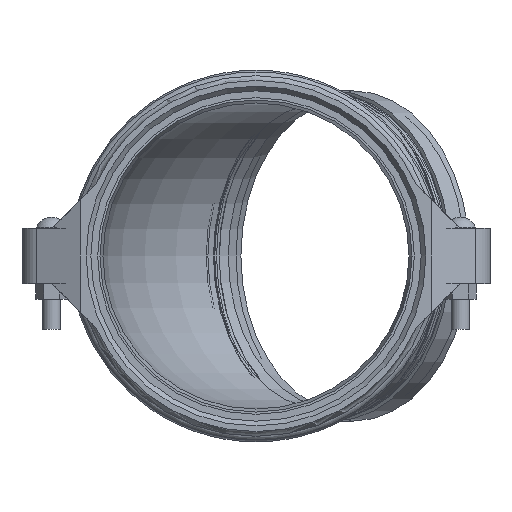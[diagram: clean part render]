
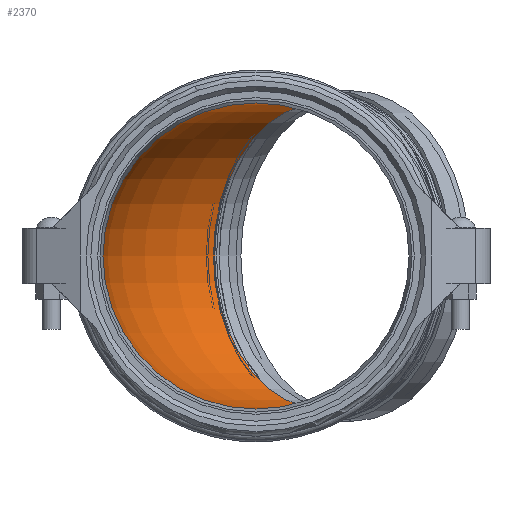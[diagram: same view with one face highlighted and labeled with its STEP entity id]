
A CAD part, left-side view. The second image highlights one B-rep face of the part: STEP entity #2370.
In plain terms, the highlighted toroidal (fillet/blend) face has major radius 316.416 mm and minor radius 211.836 mm.
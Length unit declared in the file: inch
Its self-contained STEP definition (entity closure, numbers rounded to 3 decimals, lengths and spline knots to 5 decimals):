
#76=TOROIDAL_SURFACE('',#2712,12.45734,8.34);
#528=FACE_OUTER_BOUND('',#665,.T.);
#665=EDGE_LOOP('',(#1967,#1968,#1969,#1970,#1971));
#807=CIRCLE('',#2713,8.34);
#808=CIRCLE('',#2714,4.11734);
#809=CIRCLE('',#2715,8.34);
#810=CIRCLE('',#2716,8.34);
#1050=VERTEX_POINT('',#4478);
#1051=VERTEX_POINT('',#4480);
#1052=VERTEX_POINT('',#4482);
#1366=EDGE_CURVE('',#1050,#1050,#807,.T.);
#1367=EDGE_CURVE('',#1050,#1051,#808,.T.);
#1368=EDGE_CURVE('',#1051,#1052,#809,.T.);
#1369=EDGE_CURVE('',#1052,#1051,#810,.T.);
#1967=ORIENTED_EDGE('',*,*,#1366,.F.);
#1968=ORIENTED_EDGE('',*,*,#1367,.T.);
#1969=ORIENTED_EDGE('',*,*,#1368,.T.);
#1970=ORIENTED_EDGE('',*,*,#1369,.T.);
#1971=ORIENTED_EDGE('',*,*,#1367,.F.);
#2370=ADVANCED_FACE('',(#528),#76,.F.);
#2712=AXIS2_PLACEMENT_3D('',#4477,#3365,#3366);
#2713=AXIS2_PLACEMENT_3D('',#4479,#3367,#3368);
#2714=AXIS2_PLACEMENT_3D('',#4481,#3369,#3370);
#2715=AXIS2_PLACEMENT_3D('',#4483,#3371,#3372);
#2716=AXIS2_PLACEMENT_3D('',#4484,#3373,#3374);
#3365=DIRECTION('center_axis',(0.,0.,-1.));
#3366=DIRECTION('ref_axis',(-1.,0.,0.));
#3367=DIRECTION('center_axis',(0.,1.,0.));
#3368=DIRECTION('ref_axis',(-1.,0.,0.));
#3369=DIRECTION('center_axis',(0.,0.,-1.));
#3370=DIRECTION('ref_axis',(-1.,0.,0.));
#3371=DIRECTION('center_axis',(0.707,0.707,0.));
#3372=DIRECTION('ref_axis',(-0.707,0.707,0.));
#3373=DIRECTION('center_axis',(0.707,0.707,0.));
#3374=DIRECTION('ref_axis',(-0.707,0.707,0.));
#4477=CARTESIAN_POINT('Origin',(12.45734,-5.16,0.));
#4478=CARTESIAN_POINT('',(8.34,-5.16,0.));
#4479=CARTESIAN_POINT('Origin',(0.,-5.16,0.));
#4480=CARTESIAN_POINT('',(9.54594,-2.2486,0.));
#4481=CARTESIAN_POINT('Origin',(12.45734,-5.16,0.));
#4482=CARTESIAN_POINT('',(3.64867,3.64867,8.34));
#4483=CARTESIAN_POINT('Origin',(3.64867,3.64867,0.));
#4484=CARTESIAN_POINT('Origin',(3.64867,3.64867,0.));
